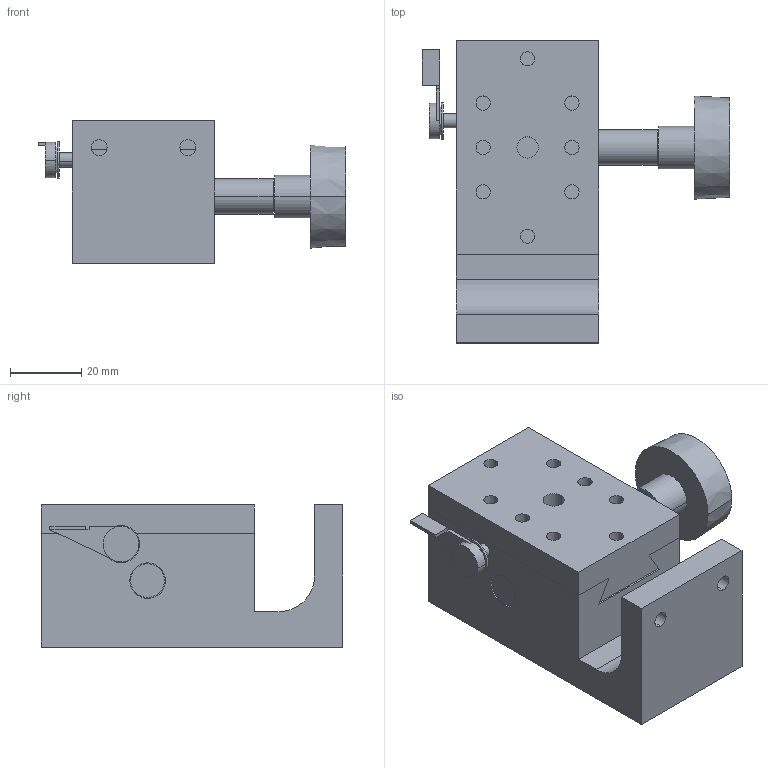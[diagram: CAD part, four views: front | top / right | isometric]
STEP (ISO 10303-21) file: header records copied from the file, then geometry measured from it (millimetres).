
FILE_DESCRIPTION (( 'STEP AP203' ), '1' );
FILE_NAME ('LV-612.STEP', '2008-03-03T08:43:59', ( '' ), ( '' ), 'SwSTEP 2.0', 'SolidWorks 2007', '' );
FILE_SCHEMA (( 'CONFIG_CONTROL_DESIGN' ));
Length unit declared in the file: millimetre
Products named in the file (3): LV-612-1; LV-612-2; LV-612
Assembly tree (2 placements, depth 2):
  LV-612
    LV-612-1
    LV-612-2
Bounding box: 86.7 x 85 x 40 mm (x, y, z)
Volume: 123086 mm3; surface area: 30886.6 mm2
Topology: 2 solids, 2 shells, 101 faces, 249 edges, 165 vertices
Faces by surface type: plane 54, cylinder 45, cone 2
Entity records: 3365 total; most frequent: DIRECTION 558, CARTESIAN_POINT 520, ORIENTED_EDGE 498, EDGE_CURVE 249, AXIS2_PLACEMENT_3D 203, VERTEX_POINT 165, VECTOR 152, LINE 152
